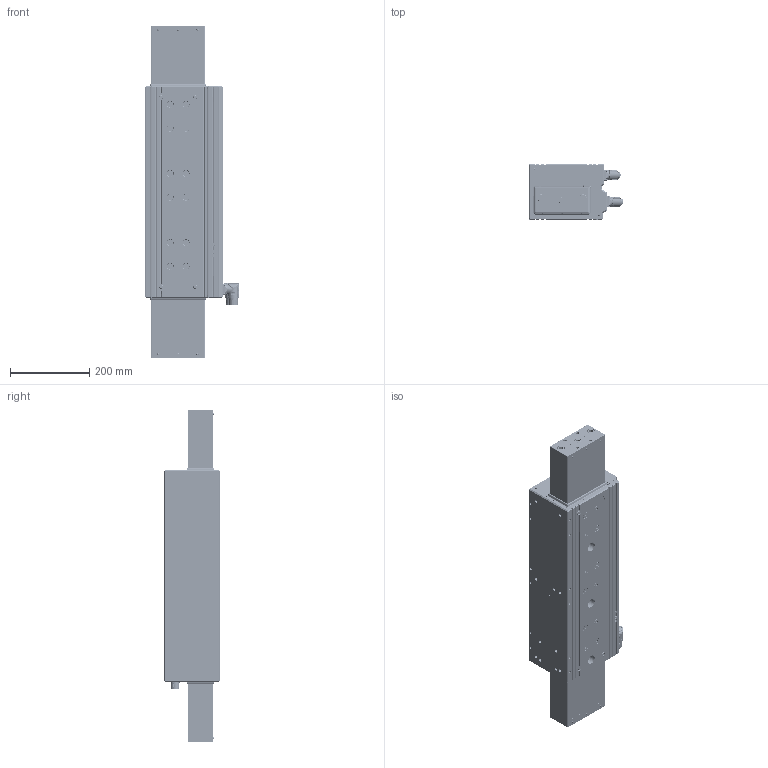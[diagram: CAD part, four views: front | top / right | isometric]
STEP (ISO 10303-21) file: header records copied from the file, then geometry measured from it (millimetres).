
FILE_DESCRIPTION((''),'2;1');
FILE_NAME('LDAT-100-DUMMY_ASM','2012-05-17T',('als'),('Rockwell Automation'),'PRO/ENGINEER BY PARAMETRIC TECHNOLOGY CORPORATION, 2007390','PRO/ENGINEER BY PARAMETRIC TECHNOLOGY CORPORATION, 2007390','');
FILE_SCHEMA(('CONFIG_CONTROL_DESIGN'));
Length unit declared in the file: millimetre
Products named in the file (34): B627631-100-A_AF3; D627756-100-400_ASM; D627768-100; D627769-100; B627834; D627739-100; LDAT-100-SLIDER-DUMMY-800; B627686-100; A805843-1; A805843-2; A805843-4; A805843-3_ASM; A805843-5; A805843-6; A805843_ASM; A805844-1; A805844-2; A805844-3; A805844_ASM; B805901-E1-NT_ASM; DIN7991-12_9-8X22-ZP; 627795; 627815; DIN912-3X8; DIN912-2_5X12; 627849; DIN7991-12_9-5X30-ZP; DIN912-12X50; DIN912-10X16; B627690-100; ISO7380-3X6; DIN7991-10_9-5X30-ZP; DIN7991-10_9-8X22-ZP; LDAT-100-DUMMY_ASM
Assembly tree (99 placements, depth 4):
  LDAT-100-DUMMY_ASM
    D627756-100-400_ASM
      B627631-100-A_AF3
    D627768-100
    D627769-100
    B627834
    D627739-100  x2
    LDAT-100-SLIDER-DUMMY-800
    B627686-100  x2
    A805843_ASM
      A805843-1
      A805843-2
      A805843-3_ASM
        A805843-4
      A805843-5  x4
      A805843-6  x2
    B805901-E1-NT_ASM
      A805844_ASM
        A805844-1
        A805844-2
        A805844-3
    DIN7991-12_9-8X22-ZP  x8
    627795  x4
    627815  x3
    DIN912-3X8  x14
    DIN912-2_5X12  x8
    627849  x6
    DIN7991-12_9-5X30-ZP  x6
    DIN912-12X50  x4
    DIN912-10X16  x2
    B627690-100  x2
    ISO7380-3X6  x6
    DIN7991-10_9-5X30-ZP  x6
    DIN7991-10_9-8X22-ZP  x4
Bounding box: 239.05 x 140 x 838.1 mm (x, y, z)
Volume: 12623527.9 mm3; surface area: 1448882.6 mm2
Topology: 94 solids, 109 shells, 6553 faces, 17927 edges, 11695 vertices
Faces by surface type: cylinder 2620, plane 1812, bspline 834, cone 623, torus 542, sphere 117, extrusion 3, revolution 2
Entity records: 240950 total; most frequent: CARTESIAN_POINT 120485, ORIENTED_EDGE 27294, DIRECTION 22517, EDGE_CURVE 13672, AXIS2_PLACEMENT_3D 9177, VERTEX_POINT 9075, EDGE_LOOP 5223, CIRCLE 5027
